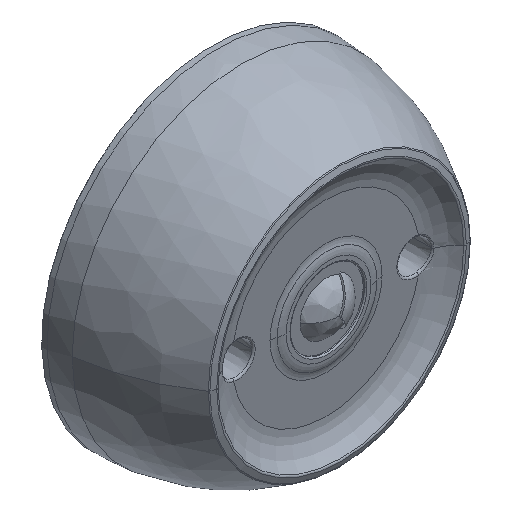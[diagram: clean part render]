
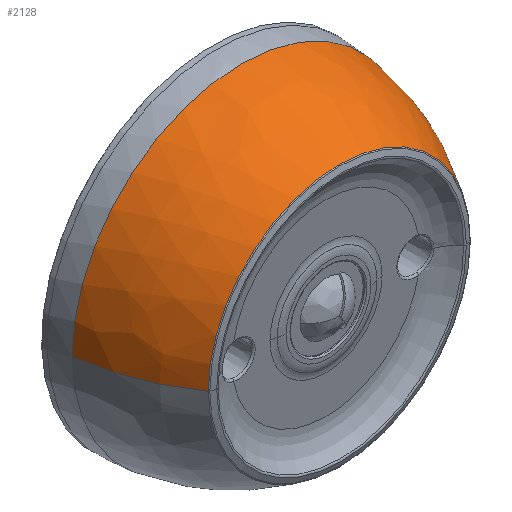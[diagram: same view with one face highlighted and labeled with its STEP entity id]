
A CAD part, isometric view. The second image highlights one B-rep face of the part: STEP entity #2128.
In plain terms, the highlighted free-form (B-spline) face has degree [3, 3] with [7, 4] control points.
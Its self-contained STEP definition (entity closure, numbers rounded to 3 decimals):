
#772=CARTESIAN_POINT('',(0.,28.284,0.));
#773=DIRECTION('',(0.,1.,0.));
#774=DIRECTION('',(-1.,0.,0.));
#775=AXIS2_PLACEMENT_3D('',#772,#773,#774);
#804=CARTESIAN_POINT('',(15.02,36.821,0.));
#805=DIRECTION('',(0.,0.,1.));
#806=DIRECTION('',(-0.991,-0.135,0.));
#807=AXIS2_PLACEMENT_3D('',#804,#805,#806);
#812=CARTESIAN_POINT('',(-15.02,36.821,0.));
#813=DIRECTION('',(0.,0.,-1.));
#814=DIRECTION('',(0.991,-0.135,0.));
#815=AXIS2_PLACEMENT_3D('',#812,#813,#814);
#875=CARTESIAN_POINT('',(0.,0.668,0.));
#876=DIRECTION('',(0.,1.,0.));
#877=DIRECTION('',(-1.,0.,0.));
#878=AXIS2_PLACEMENT_3D('',#875,#876,#877);
#1225=CARTESIAN_POINT('',(-47.702,28.284,0.));
#1226=CARTESIAN_POINT('',(-36.94,0.668,0.));
#1227=VERTEX_POINT('',#1225);
#1228=VERTEX_POINT('',#1226);
#1229=CARTESIAN_POINT('',(47.702,28.284,
0.));
#1230=CARTESIAN_POINT('',(36.94,0.668,0.));
#1231=VERTEX_POINT('',#1229);
#1232=VERTEX_POINT('',#1230);
#2090=CARTESIAN_POINT('',(-36.524,0.179,
-2.298));
#2091=CARTESIAN_POINT('',(-42.577,8.722,
-2.679));
#2092=CARTESIAN_POINT('',(-46.373,18.484,
-2.918));
#2093=CARTESIAN_POINT('',(-47.685,28.878,
-3.));
#2094=CARTESIAN_POINT('',(-37.938,0.179,
20.179));
#2095=CARTESIAN_POINT('',(-44.225,8.722,23.523));
#2096=CARTESIAN_POINT('',(-48.169,18.484,25.621));
#2097=CARTESIAN_POINT('',(-49.532,28.878,26.345));
#2098=CARTESIAN_POINT('',(-22.521,0.179,
36.596));
#2099=CARTESIAN_POINT('',(-26.254,8.722,42.661));
#2100=CARTESIAN_POINT('',(-28.595,18.484,46.465));
#2101=CARTESIAN_POINT('',(-29.404,28.878,47.78));
#2102=CARTESIAN_POINT('',(0.,0.179,
36.596));
#2103=CARTESIAN_POINT('',(0.,8.722,42.661));
#2104=CARTESIAN_POINT('',(0.,18.484,46.465));
#2105=CARTESIAN_POINT('',(0.,28.878,
47.78));
#2106=CARTESIAN_POINT('',(22.521,0.179,36.596));
#2107=CARTESIAN_POINT('',(26.254,8.722,42.661));
#2108=CARTESIAN_POINT('',(28.595,18.484,46.465));
#2109=CARTESIAN_POINT('',(29.404,28.878,47.78));
#2110=CARTESIAN_POINT('',(37.938,0.179,20.179));
#2111=CARTESIAN_POINT('',(44.225,8.722,23.523));
#2112=CARTESIAN_POINT('',(48.169,18.484,25.621));
#2113=CARTESIAN_POINT('',(49.532,28.878,26.345));
#2114=CARTESIAN_POINT('',(36.524,0.179,
-2.298));
#2115=CARTESIAN_POINT('',(42.577,8.722,-2.679));
#2116=CARTESIAN_POINT('',(46.373,18.484,-2.918));
#2117=CARTESIAN_POINT('',(47.685,28.878,-3.));
#2118=(BOUNDED_SURFACE()B_SPLINE_SURFACE(3,3,((#2090,#2091,#2092,#2093),(#2094,
#2095,#2096,#2097),(#2098,#2099,#2100,#2101),(#2102,#2103,#2104,#2105),(#2106,
#2107,#2108,#2109),(#2110,#2111,#2112,#2113),(#2114,#2115,#2116,#2117)),
.UNSPECIFIED.,.F.,.F.,.F.)B_SPLINE_SURFACE_WITH_KNOTS((4,3,4),(4,4),(0.,1.,
2.),(0.,1.),.UNSPECIFIED.)GEOMETRIC_REPRESENTATION_ITEM()RATIONAL_B_SPLINE_SURFACE(((1.205,1.181,1.181,1.205),(
0.952,0.933,0.933,0.952),(
0.952,0.933,0.933,0.952),(
1.205,1.181,1.181,1.205),(
0.952,0.933,0.933,0.952),(
0.952,0.933,0.933,0.952),(
1.205,1.181,1.181,1.205)))REPRESENTATION_ITEM('')SURFACE());
#2119=ORIENTED_EDGE('',*,*,#2074,.T.);
#2121=ORIENTED_EDGE('',*,*,#2120,.T.);
#2123=ORIENTED_EDGE('',*,*,#2122,.F.);
#2125=ORIENTED_EDGE('',*,*,#2124,.F.);
#2126=EDGE_LOOP('',(#2119,#2121,#2123,#2125));
#2127=FACE_OUTER_BOUND('',#2126,.F.);
#776=CIRCLE('',#775,47.702);
#808=CIRCLE('',#807,63.3);
#816=CIRCLE('',#815,63.3);
#879=CIRCLE('',#878,36.94);
#2074=EDGE_CURVE('',#1227,#1231,#776,.T.);
#2120=EDGE_CURVE('',#1231,#1232,#816,.T.);
#2122=EDGE_CURVE('',#1228,#1232,#879,.T.);
#2124=EDGE_CURVE('',#1227,#1228,#808,.T.);
#2128=ADVANCED_FACE('',(#2127),#2118,.T.);
